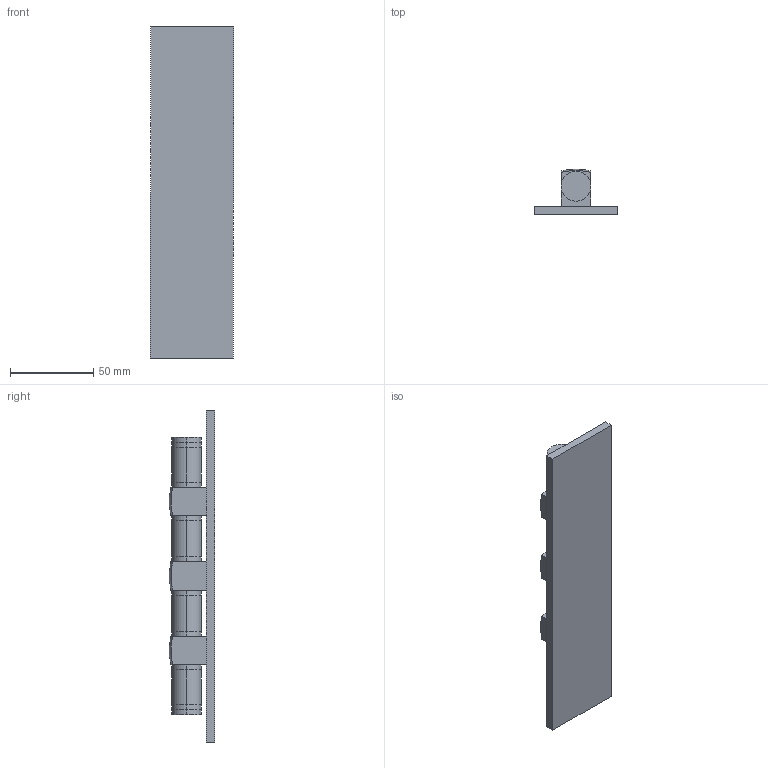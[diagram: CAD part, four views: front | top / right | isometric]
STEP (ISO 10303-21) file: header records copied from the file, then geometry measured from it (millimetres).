
FILE_DESCRIPTION (( 'STEP AP203' ), '1' );
FILE_NAME ('ht30444.STEP', '2018-08-29T10:23:26', ( '' ), ( '' ), 'SwSTEP 2.0', 'SolidWorks 2018', '' );
FILE_SCHEMA (( 'CONFIG_CONTROL_DESIGN' ));
Length unit declared in the file: millimetre
Products named in the file (1): ht30444
Bounding box: 50 x 27.39 x 200 mm (x, y, z)
Volume: 97056.4 mm3; surface area: 43877.7 mm2
Topology: 18 solids, 18 shells, 95 faces, 168 edges, 112 vertices
Faces by surface type: plane 61, cylinder 28, bspline 6
Entity records: 2893 total; most frequent: CARTESIAN_POINT 994, DIRECTION 380, ORIENTED_EDGE 336, EDGE_CURVE 168, AXIS2_PLACEMENT_3D 146, VERTEX_POINT 112, EDGE_LOOP 98, FACE_OUTER_BOUND 95
